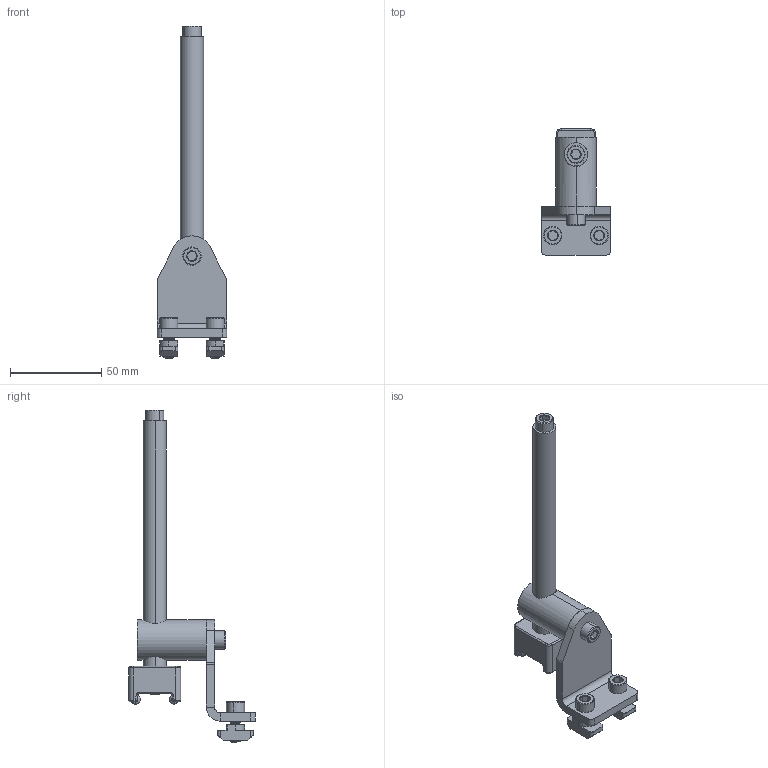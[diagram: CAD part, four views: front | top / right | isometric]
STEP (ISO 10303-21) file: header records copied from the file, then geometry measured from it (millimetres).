
FILE_DESCRIPTION((''),'2;1');
FILE_NAME('207150_ASM','2016-08-23T',('adam.dellomodarme'),(''),'PRO/ENGINEER BY PARAMETRIC TECHNOLOGY CORPORATION, 2012420','PRO/ENGINEER BY PARAMETRIC TECHNOLOGY CORPORATION, 2012420','');
FILE_SCHEMA(('CONFIG_CONTROL_DESIGN'));
Length unit declared in the file: inch
Products named in the file (15): 206692_1; 807-920_1; 206685_1; 206382_206382_1; 807-2859_91760A321_1; 207147_207147_1; 990601M_1; 206397_NO_DRAFT_1; 9206XXM_9206150M_1; 9206XXM_920625M_1; 206383_206383_1; 207146_1; ASM0001_ASM_1_ASM; 207150_ASM_1_ASM; 207150_ASM
Assembly tree (16 placements, depth 4):
  207150_ASM
    207150_ASM_1_ASM
      ASM0001_ASM_1_ASM
        206692_1
        807-920_1
        206685_1  x2
        206382_206382_1
        807-2859_91760A321_1  x2
        207147_207147_1
        990601M_1
        206397_NO_DRAFT_1
        9206XXM_9206150M_1
        9206XXM_920625M_1
        206383_206383_1
        207146_1
Bounding box: 38.1 x 69.3 x 182.11 mm (x, y, z)
Volume: 48509.5 mm3; surface area: 37220 mm2
Topology: 14 solids, 14 shells, 723 faces, 1865 edges, 1151 vertices
Faces by surface type: cylinder 339, plane 164, bspline 76, cone 71, torus 59, sphere 10, extrusion 4
Entity records: 26793 total; most frequent: CARTESIAN_POINT 13510, ORIENTED_EDGE 2832, DIRECTION 2557, EDGE_CURVE 1416, AXIS2_PLACEMENT_3D 1016, VERTEX_POINT 865, EDGE_LOOP 603, FACE_OUTER_BOUND 574
